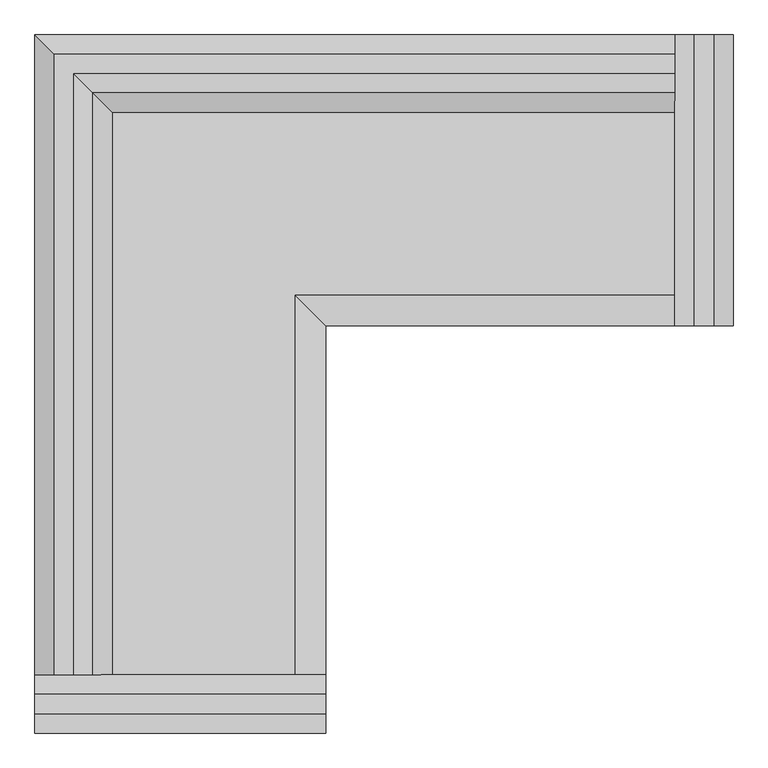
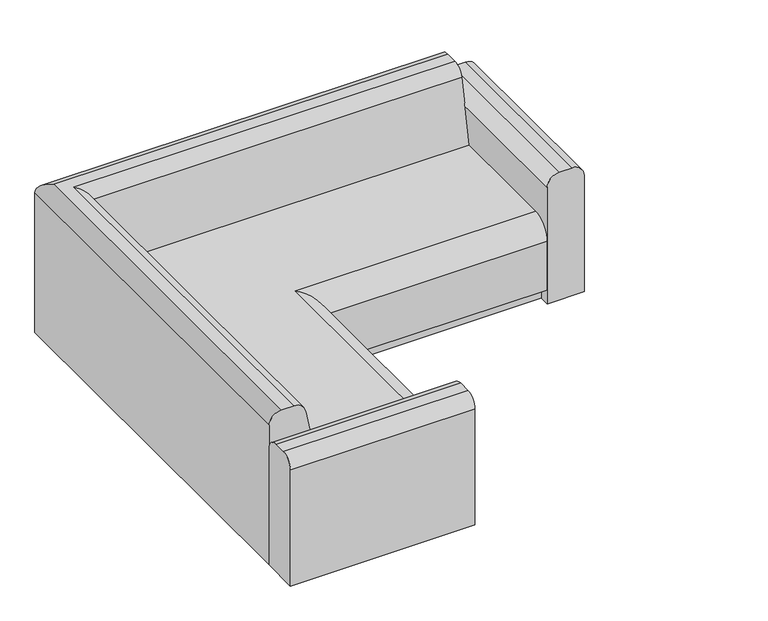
"""IFC4 building model written with IfcOpenShell, lengths in millimetres: furniture geometry, L 型长沙发 : W1800*D1800."""

from ifc_helpers import new_model, si_unit, point, frame, frame_2d, origin, place, context, project, spatial, polyline, circle_curve, ellipse_curve, trimmed, segment, composite_curve, outline, extrude, source, transform, mapped, element, save
from ifc_brep_helpers import plane_surface, cylinder_surface, advanced_brep


def furniture_7f12372d(model_context):
    return source(origin(), model_context, "Body", "SolidModel", [
        extrude(outline(composite_curve([segment(trimmed(circle_curve(frame_2d((-800.0, 500.0)), 50.0), [point((-800.0, 550.0))], [point((-750.0, 500.0))], False, "CARTESIAN"), True, "CONTINUOUS"), segment(polyline([(-750.0, 500.0), (-750.0, 0.0), (-900.0, 0.0), (-900.0, 500.0)]), True, "CONTINUOUS"), segment(trimmed(circle_curve(frame_2d((-850.0, 500.0)), 50.0), [point((-900.0, 500.0))], [point((-850.0, 550.0))], False, "CARTESIAN"), True, "CONTINUOUS"), segment(polyline([(-850.0, 550.0), (-800.0, 550.0)]), True, "CONTINUOUS")], self_intersect=False)), frame((-900.0, 0.0, 0.0), z_axis=(1.0, 0.0, 0.0), x_axis=(0.0, 1.0, 0.0)), (0.0, 0.0, 1.0), 750.0),
        extrude(outline(composite_curve([segment(polyline([(550.0, 850.0), (550.0, 800.0)]), True, "CONTINUOUS"), segment(trimmed(circle_curve(frame_2d((500.0, 800.0)), 50.0), [point((550.0, 800.0))], [point((500.0, 750.0))], False, "CARTESIAN"), True, "CONTINUOUS"), segment(polyline([(500.0, 750.0), (0.0, 750.0), (0.0, 900.0), (500.0, 900.0)]), True, "CONTINUOUS"), segment(trimmed(circle_curve(frame_2d((500.0, 850.0)), 50.0), [point((500.0, 900.0))], [point((550.0, 850.0))], False, "CARTESIAN"), True, "CONTINUOUS")], self_intersect=False)), frame((0.0, 150.0, 0.0), z_axis=(0.0, 1.0, 0.0), x_axis=(0.0, 0.0, 1.0)), (0.0, 0.0, 1.0), 750.0),
        advanced_brep(
        [(750.0, 850.0, 650.0), (750.0, 800.9901951, 650.0), (750.0, 751.9611614, 609.8058068), (750.0, 700.0, 350.0), (750.0, 230.0, 350.0), (750.0, 150.0, 270.0), (750.0, 150.0, 60.0), (750.0, 190.0, 60.0), (750.0, 190.0, 0.0), (750.0, 900.0, 0.0), (750.0, 900.0, 600.0), (-850.0, 850.0, 650.0), (-850.0, -750.0, 650.0), (-800.9901951, -750.0, 650.0), (-800.9901951, 800.9901951, 650.0), (-751.9611614, 751.9611614, 609.8058068), (-700.0, 700.0, 350.0), (-700.0, -750.0, 350.0), (-230.0, -750.0, 350.0), (-230.0, 230.0, 350.0), (-150.0, 150.0, 270.0), (-150.0, 150.0, 60.0), (-150.0, -750.0, 60.0), (-190.0, -750.0, 60.0), (-190.0, 190.0, 60.0), (-190.0, 190.0, 0.0), (-190.0, -750.0, 0.0), (-900.0, -750.0, 0.0), (-900.0, 900.0, 0.0), (-900.0, 900.0, 600.0), (-900.0, -750.0, 600.0), (-150.0, -750.0, 270.0), (-751.9611614, -750.0, 609.8058068)],
        [
            (0, 1),
            (1, 2, circle_curve(frame((750.0, 800.9901951, 600.0), z_axis=(1.0, 0.0, 0.0), x_axis=(0.0, -1.0, 0.0)), 50.0)),
            (2, 3),
            (3, 4),
            (4, 5, circle_curve(frame((750.0, 230.0, 270.0), z_axis=(1.0, 0.0, 0.0), x_axis=(0.0, -1.0, 0.0)), 80.0)),
            (5, 6),
            (6, 7),
            (7, 8),
            (8, 9),
            (9, 10),
            (10, 0, circle_curve(frame((750.0, 850.0, 600.0), z_axis=(1.0, 0.0, 0.0), x_axis=(0.0, -1.0, 0.0)), 50.0)),
            (0, 11),
            (11, 12),
            (12, 13),
            (13, 14),
            (14, 1),
            (14, 15, ellipse_curve(frame((-800.9901951, 800.9901951, 600.0), z_axis=(0.7071067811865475, 0.7071067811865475, 0.0), x_axis=(0.7071067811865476, -0.7071067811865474, 0.0)), 70.7106781, 50.0)),
            (15, 2),
            (15, 16),
            (16, 3),
            (16, 17),
            (17, 18),
            (18, 19),
            (19, 4),
            (19, 20, ellipse_curve(frame((-230.0, 230.0, 270.0), z_axis=(0.7071067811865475, 0.7071067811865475, 0.0), x_axis=(0.7071067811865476, -0.7071067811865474, 0.0)), 113.137085, 80.0)),
            (20, 5),
            (20, 21),
            (21, 6),
            (21, 22),
            (22, 23),
            (23, 24),
            (24, 7),
            (24, 25),
            (25, 8),
            (25, 26),
            (26, 27),
            (27, 28),
            (28, 9),
            (28, 29),
            (29, 10),
            (29, 11, ellipse_curve(frame((-850.0, 850.0, 600.0), z_axis=(0.7071067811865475, 0.7071067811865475, 0.0), x_axis=(0.7071067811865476, -0.7071067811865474, 0.0)), 70.7106781, 50.0)),
            (12, 30, circle_curve(frame((-850.0, -750.0, 600.0), z_axis=(0.0, -1.0, 0.0), x_axis=(1.0, 0.0, 0.0)), 50.0)),
            (30, 27),
            (26, 23),
            (22, 31),
            (31, 18, circle_curve(frame((-230.0, -750.0, 270.0), z_axis=(0.0, -1.0, 0.0), x_axis=(1.0, 0.0, 0.0)), 80.0)),
            (17, 32),
            (32, 13, circle_curve(frame((-800.9901951, -750.0, 600.0), z_axis=(0.0, -1.0, 0.0), x_axis=(1.0, 0.0, 0.0)), 50.0)),
            (32, 15),
            (31, 20),
            (30, 29),
        ],
        [
            plane_surface(frame((750.0, 900.0, -802.3539183), z_axis=(1.0, 0.0, 0.0), x_axis=(0.0, -1.0, 0.0))),
            plane_surface(frame((750.0, 850.0, 650.0), z_axis=(0.0, 0.0, 1.0), x_axis=(-1.0, 0.0, 0.0))),
            cylinder_surface(frame((750.0, 800.9901951, 600.0), z_axis=(1.0, 0.0, 0.0), x_axis=(0.0, -1.0, 0.0)), 50.0),
            plane_surface(frame((750.0, 751.9611614, 609.8058068), z_axis=(0.0, -0.9805806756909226, 0.19611613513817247), x_axis=(-1.0, 0.0, 0.0))),
            plane_surface(frame((750.0, 700.0, 350.0), z_axis=(0.0, 0.0, 1.0), x_axis=(-1.0, 0.0, 0.0))),
            cylinder_surface(frame((750.0, 230.0, 270.0), z_axis=(1.0, 0.0, 0.0), x_axis=(0.0, -1.0, 0.0)), 80.0),
            plane_surface(frame((750.0, 150.0, 270.0), z_axis=(0.0, -1.0, 0.0), x_axis=(-1.0, 0.0, 0.0))),
            plane_surface(frame((750.0, 150.0, 60.0), z_axis=(0.0, 0.0, -1.0), x_axis=(-1.0, 0.0, 0.0))),
            plane_surface(frame((750.0, 190.0, 60.0), z_axis=(0.0, -1.0, 0.0), x_axis=(-1.0, 0.0, 0.0))),
            plane_surface(frame((750.0, 190.0, 0.0), z_axis=(0.0, 0.0, -1.0), x_axis=(-1.0, 0.0, 0.0))),
            plane_surface(frame((750.0, 900.0, 0.0), z_axis=(0.0, 1.0, 0.0), x_axis=(-1.0, 0.0, 0.0))),
            cylinder_surface(frame((750.0, 850.0, 600.0), z_axis=(1.0, 0.0, 0.0), x_axis=(0.0, -1.0, 0.0)), 50.0),
            plane_surface(frame((-1702.3539183, -750.0, 0.0), z_axis=(0.0, -1.0, 0.0), x_axis=(0.0, 0.0, -1.0))),
            cylinder_surface(frame((-800.9901951, 900.0, 600.0), z_axis=(0.0, 1.0, 0.0), x_axis=(1.0, 0.0, 0.0)), 50.0),
            plane_surface(frame((-751.9611614, 751.9611614, 609.8058068), z_axis=(0.9805806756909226, 0.0, 0.19611613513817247), x_axis=(0.0, -1.0, 0.0))),
            cylinder_surface(frame((-230.0, 900.0, 270.0), z_axis=(0.0, 1.0, 0.0), x_axis=(1.0, 0.0, 0.0)), 80.0),
            plane_surface(frame((-150.0, 150.0, 270.0), z_axis=(1.0, 0.0, 0.0), x_axis=(0.0, -1.0, 0.0))),
            plane_surface(frame((-190.0, 190.0, 60.0), z_axis=(1.0, 0.0, 0.0), x_axis=(0.0, -1.0, 0.0))),
            plane_surface(frame((-900.0, 900.0, 0.0), z_axis=(-1.0, 0.0, 0.0), x_axis=(0.0, -1.0, 0.0))),
            cylinder_surface(frame((-850.0, 900.0, 600.0), z_axis=(0.0, 1.0, 0.0), x_axis=(1.0, 0.0, 0.0)), 50.0),
        ],
        [
            (0, [[1, 2, 3, 4, 5, 6, 7, 8, 9, 10, 11]]),
            (1, [[-1, 12, 13, 14, 15, 16]]),
            (2, [[-2, -16, 17, 18]]),
            (3, [[-3, -18, 19, 20]]),
            (4, [[-4, -20, 21, 22, 23, 24]]),
            (5, [[-5, -24, 25, 26]]),
            (6, [[-6, -26, 27, 28]]),
            (7, [[-7, -28, 29, 30, 31, 32]]),
            (8, [[-8, -32, 33, 34]]),
            (9, [[-9, -34, 35, 36, 37, 38]]),
            (10, [[-10, -38, 39, 40]]),
            (11, [[-11, -40, 41, -12]]),
            (12, [[42, 43, -36, 44, -30, 45, 46, -22, 47, 48, -14]]),
            (13, [[-17, -15, -48, 49]]),
            (14, [[-19, -49, -47, -21]]),
            (15, [[-25, -23, -46, 50]]),
            (16, [[-27, -50, -45, -29]]),
            (17, [[-33, -31, -44, -35]]),
            (18, [[-39, -37, -43, 51]]),
            (19, [[-41, -51, -42, -13]]),
        ],
    ),
    ])


if __name__ == "__main__":
    model = new_model("IFC4")
    model_context = context("Model", 3, world=origin())
    ifc_project = project(units=[si_unit("LENGTHUNIT", "METRE", prefix="MILLI")], contexts=[model_context])
    site = spatial("IfcSite", under=ifc_project)
    building = spatial("IfcBuilding", under=site)
    placement = place(None, origin())
    furniture_shape = furniture_7f12372d(model_context)
    element("IfcFurniture", 1, ObjectType="L 型长沙发 : W1800*D1800", at=placement, inside=building, context=model_context, shape_type="MappedRepresentation", body=[
        mapped(furniture_shape, transform((0.0, 0.0, 0.0), x_axis=(1.0, 0.0, 0.0), y_axis=(0.0, 1.0, 0.0), z_axis=(0.0, 0.0, 1.0))),
    ])
    save(model, "model.ifc")
